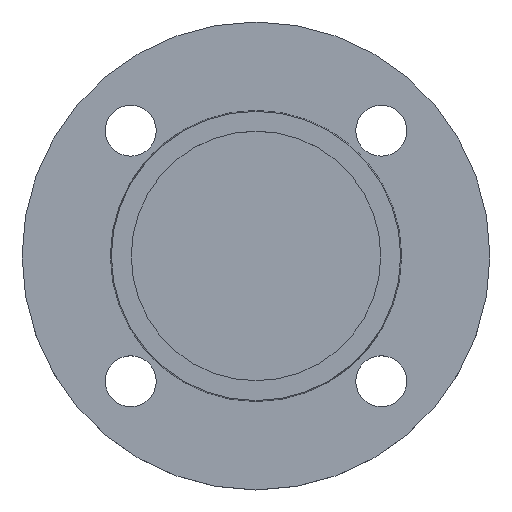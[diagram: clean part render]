
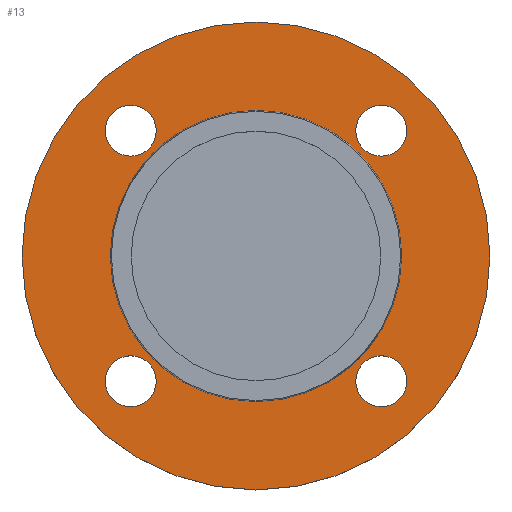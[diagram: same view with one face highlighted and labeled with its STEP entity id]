
A CAD part, top view. The second image highlights one B-rep face of the part: STEP entity #13.
In plain terms, the highlighted planar face has unit normal (0, 0, 1).
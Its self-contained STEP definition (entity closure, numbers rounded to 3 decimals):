
#13 = ADVANCED_FACE ( 'NONE', ( #700, #701, #702, #703, #704, #705 ), #706, .T. ) ;
#19 = DIRECTION ( 'NONE',  ( -1., 0., 0. ) ) ;
#22 = DIRECTION ( 'NONE',  ( 0., 0., -1. ) ) ;
#23 = AXIS2_PLACEMENT_3D ( 'NONE', #707, #708, #709 ) ;
#26 = EDGE_CURVE ( 'NONE', #668, #664, #38, .T. ) ;
#27 = CARTESIAN_POINT ( 'NONE',  ( 0., 0., -2. ) ) ;
#38 = CIRCLE ( 'NONE', #40, 9. ) ;
#40 = AXIS2_PLACEMENT_3D ( 'NONE', #714, #715, #716 ) ;
#60 = EDGE_CURVE ( 'NONE', #660, #419, #102, .T. ) ;
#61 = EDGE_CURVE ( 'NONE', #419, #660, #118, .T. ) ;
#70 = CARTESIAN_POINT ( 'NONE',  ( 35.194, -44.194, -2. ) ) ;
#82 = CARTESIAN_POINT ( 'NONE',  ( 82.5, 0., -2. ) ) ;
#84 = CARTESIAN_POINT ( 'NONE',  ( -53.194, 44.194, -2. ) ) ;
#86 = CARTESIAN_POINT ( 'NONE',  ( -35.194, 44.194, -2. ) ) ;
#89 = CARTESIAN_POINT ( 'NONE',  ( 53.194, 44.194, -2. ) ) ;
#98 = CARTESIAN_POINT ( 'NONE',  ( 53.194, -44.194, -2. ) ) ;
#102 = CIRCLE ( 'NONE', #105, 9. ) ;
#105 = AXIS2_PLACEMENT_3D ( 'NONE', #735, #737, #738 ) ;
#114 = CARTESIAN_POINT ( 'NONE',  ( -82.5, 0., -2. ) ) ;
#118 = CIRCLE ( 'NONE', #121, 9. ) ;
#121 = AXIS2_PLACEMENT_3D ( 'NONE', #739, #740, #741 ) ;
#132 = DIRECTION ( 'NONE',  ( 1., 0., 0. ) ) ;
#133 = DIRECTION ( 'NONE',  ( 0., 0., -1. ) ) ;
#134 = CARTESIAN_POINT ( 'NONE',  ( 44.194, -44.194, -2. ) ) ;
#135 = CARTESIAN_POINT ( 'NONE',  ( -51.353, 0., -2. ) ) ;
#200 = CARTESIAN_POINT ( 'NONE',  ( 51.353, 0., -2. ) ) ;
#202 = CARTESIAN_POINT ( 'NONE',  ( -53.194, -44.194, -2. ) ) ;
#206 = EDGE_CURVE ( 'NONE', #664, #668, #271, .T. ) ;
#207 = DIRECTION ( 'NONE',  ( 1., 0., 0. ) ) ;
#222 = CARTESIAN_POINT ( 'NONE',  ( -44.194, -44.194, -2. ) ) ;
#227 = CARTESIAN_POINT ( 'NONE',  ( -35.194, -44.194, -2. ) ) ;
#228 = DIRECTION ( 'NONE',  ( 1., 0., 0. ) ) ;
#259 = EDGE_CURVE ( 'NONE', #408, #353, #286, .T. ) ;
#260 = CARTESIAN_POINT ( 'NONE',  ( 35.194, 44.194, -2. ) ) ;
#264 = CARTESIAN_POINT ( 'NONE',  ( 44.194, -44.194, -2. ) ) ;
#269 = AXIS2_PLACEMENT_3D ( 'NONE', #134, #133, #132 ) ;
#271 = CIRCLE ( 'NONE', #274, 9. ) ;
#274 = AXIS2_PLACEMENT_3D ( 'NONE', #814, #815, #816 ) ;
#275 = EDGE_CURVE ( 'NONE', #646, #673, #300, .T. ) ;
#286 = CIRCLE ( 'NONE', #293, 9. ) ;
#293 = AXIS2_PLACEMENT_3D ( 'NONE', #310, #319, #320 ) ;
#295 = EDGE_CURVE ( 'NONE', #611, #435, #311, .T. ) ;
#298 = CIRCLE ( 'NONE', #765, 82.5 ) ;
#300 = CIRCLE ( 'NONE', #301, 82.5 ) ;
#301 = AXIS2_PLACEMENT_3D ( 'NONE', #325, #326, #330 ) ;
#310 = CARTESIAN_POINT ( 'NONE',  ( -44.194, -44.194, -2. ) ) ;
#311 = CIRCLE ( 'NONE', #316, 51.353 ) ;
#316 = AXIS2_PLACEMENT_3D ( 'NONE', #360, #363, #364 ) ;
#319 = DIRECTION ( 'NONE',  ( 0., 0., -1. ) ) ;
#320 = DIRECTION ( 'NONE',  ( 1., 0., 0. ) ) ;
#325 = CARTESIAN_POINT ( 'NONE',  ( 0., 0., -2. ) ) ;
#326 = DIRECTION ( 'NONE',  ( 0., 0., -1. ) ) ;
#327 = EDGE_CURVE ( 'NONE', #435, #611, #361, .T. ) ;
#330 = DIRECTION ( 'NONE',  ( -1., 0., 0. ) ) ;
#353 = VERTEX_POINT ( 'NONE', #227 ) ;
#360 = CARTESIAN_POINT ( 'NONE',  ( 0., 0., -2. ) ) ;
#361 = CIRCLE ( 'NONE', #362, 51.353 ) ;
#362 = AXIS2_PLACEMENT_3D ( 'NONE', #388, #389, #391 ) ;
#363 = DIRECTION ( 'NONE',  ( 0., 0., -1. ) ) ;
#364 = DIRECTION ( 'NONE',  ( -1., 0., 0. ) ) ;
#388 = CARTESIAN_POINT ( 'NONE',  ( 0., 0., -2. ) ) ;
#389 = DIRECTION ( 'NONE',  ( 0., 0., -1. ) ) ;
#391 = DIRECTION ( 'NONE',  ( -1., 0., 0. ) ) ;
#408 = VERTEX_POINT ( 'NONE', #202 ) ;
#415 = EDGE_CURVE ( 'NONE', #682, #652, #423, .T. ) ;
#419 = VERTEX_POINT ( 'NONE', #260 ) ;
#423 = CIRCLE ( 'NONE', #425, 9. ) ;
#425 = AXIS2_PLACEMENT_3D ( 'NONE', #264, #434, #228 ) ;
#429 = EDGE_LOOP ( 'NONE', ( #538, #539 ) ) ;
#433 = EDGE_LOOP ( 'NONE', ( #552, #553 ) ) ;
#434 = DIRECTION ( 'NONE',  ( 0., 0., -1. ) ) ;
#435 = VERTEX_POINT ( 'NONE', #200 ) ;
#436 = EDGE_CURVE ( 'NONE', #353, #408, #438, .T. ) ;
#438 = CIRCLE ( 'NONE', #440, 9. ) ;
#440 = AXIS2_PLACEMENT_3D ( 'NONE', #222, #591, #207 ) ;
#443 = EDGE_LOOP ( 'NONE', ( #545, #546 ) ) ;
#532 = EDGE_LOOP ( 'NONE', ( #547, #551 ) ) ;
#538 = ORIENTED_EDGE ( 'NONE', *, *, #614, .T. ) ;
#539 = ORIENTED_EDGE ( 'NONE', *, *, #415, .T. ) ;
#541 = ORIENTED_EDGE ( 'NONE', *, *, #436, .T. ) ;
#542 = ORIENTED_EDGE ( 'NONE', *, *, #259, .T. ) ;
#543 = ORIENTED_EDGE ( 'NONE', *, *, #206, .T. ) ;
#544 = ORIENTED_EDGE ( 'NONE', *, *, #26, .T. ) ;
#545 = ORIENTED_EDGE ( 'NONE', *, *, #60, .T. ) ;
#546 = ORIENTED_EDGE ( 'NONE', *, *, #61, .T. ) ;
#547 = ORIENTED_EDGE ( 'NONE', *, *, #295, .T. ) ;
#551 = ORIENTED_EDGE ( 'NONE', *, *, #327, .T. ) ;
#552 = ORIENTED_EDGE ( 'NONE', *, *, #780, .F. ) ;
#553 = ORIENTED_EDGE ( 'NONE', *, *, #275, .F. ) ;
#561 = CIRCLE ( 'NONE', #269, 9. ) ;
#591 = DIRECTION ( 'NONE',  ( 0., 0., -1. ) ) ;
#611 = VERTEX_POINT ( 'NONE', #135 ) ;
#614 = EDGE_CURVE ( 'NONE', #652, #682, #561, .T. ) ;
#646 = VERTEX_POINT ( 'NONE', #114 ) ;
#648 = EDGE_LOOP ( 'NONE', ( #541, #542 ) ) ;
#652 = VERTEX_POINT ( 'NONE', #98 ) ;
#660 = VERTEX_POINT ( 'NONE', #89 ) ;
#664 = VERTEX_POINT ( 'NONE', #86 ) ;
#668 = VERTEX_POINT ( 'NONE', #84 ) ;
#673 = VERTEX_POINT ( 'NONE', #82 ) ;
#682 = VERTEX_POINT ( 'NONE', #70 ) ;
#687 = EDGE_LOOP ( 'NONE', ( #543, #544 ) ) ;
#700 = FACE_BOUND ( 'NONE', #429, .T. ) ;
#701 = FACE_BOUND ( 'NONE', #648, .T. ) ;
#702 = FACE_BOUND ( 'NONE', #687, .T. ) ;
#703 = FACE_BOUND ( 'NONE', #443, .T. ) ;
#704 = FACE_BOUND ( 'NONE', #532, .T. ) ;
#705 = FACE_OUTER_BOUND ( 'NONE', #433, .T. ) ;
#706 = PLANE ( 'NONE',  #23 ) ;
#707 = CARTESIAN_POINT ( 'NONE',  ( 51.353, 0., -2. ) ) ;
#708 = DIRECTION ( 'NONE',  ( 0., 0., 1. ) ) ;
#709 = DIRECTION ( 'NONE',  ( 1., 0., 0. ) ) ;
#714 = CARTESIAN_POINT ( 'NONE',  ( -44.194, 44.194, -2. ) ) ;
#715 = DIRECTION ( 'NONE',  ( 0., 0., -1. ) ) ;
#716 = DIRECTION ( 'NONE',  ( 1., 0., 0. ) ) ;
#735 = CARTESIAN_POINT ( 'NONE',  ( 44.194, 44.194, -2. ) ) ;
#737 = DIRECTION ( 'NONE',  ( 0., 0., -1. ) ) ;
#738 = DIRECTION ( 'NONE',  ( 1., 0., 0. ) ) ;
#739 = CARTESIAN_POINT ( 'NONE',  ( 44.194, 44.194, -2. ) ) ;
#740 = DIRECTION ( 'NONE',  ( 0., 0., -1. ) ) ;
#741 = DIRECTION ( 'NONE',  ( 1., 0., 0. ) ) ;
#765 = AXIS2_PLACEMENT_3D ( 'NONE', #27, #22, #19 ) ;
#780 = EDGE_CURVE ( 'NONE', #673, #646, #298, .T. ) ;
#814 = CARTESIAN_POINT ( 'NONE',  ( -44.194, 44.194, -2. ) ) ;
#815 = DIRECTION ( 'NONE',  ( 0., 0., -1. ) ) ;
#816 = DIRECTION ( 'NONE',  ( 1., 0., 0. ) ) ;
